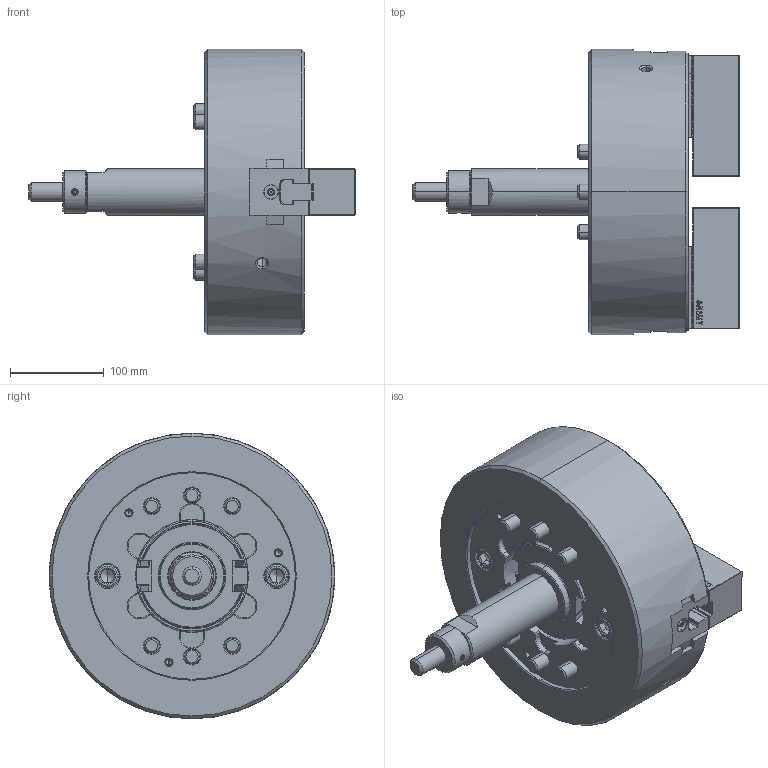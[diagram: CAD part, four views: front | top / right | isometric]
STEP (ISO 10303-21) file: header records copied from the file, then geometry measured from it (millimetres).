
FILE_DESCRIPTION (( 'STEP AP214' ), '1' );
FILE_NAME ('DT1_NLT12_OUTSIDE_VIEW_HOL.STEP', '2026-03-23T07:22:06', ( '' ), ( '' ), 'SwSTEP 2.0', 'SolidWorks 2022', '' );
FILE_SCHEMA (( 'AUTOMOTIVE_DESIGN' ));
Length unit declared in the file: millimetre
Products named in the file (11): DT1_NLT12_DRAWSCREW^DT1_NLT12; DT1_NLT12_COVER^DT1_NLT12; DT1_NLT12_TNUT^DT1_NLT12; DT1_NLT12_M16x100^DT1_NLT12; DT1_NLT12_M5x12^DT1_NLT12; DT1_NLT12_BASE^DT1_NLT12; DT1_NLT12_OUTSIDE_VIEW_HOL; Copy of 61P335750^DT1_NLT12; DT1_NLT12_SOFTJAW^DT1_NLT12; DT1_NLT12_DN^DT1_NLT12; DT1_NLT12_M14x45^DT1_NLT12
Assembly tree (23 placements, depth 2):
  DT1_NLT12_OUTSIDE_VIEW_HOL
    DT1_NLT12_SOFTJAW^DT1_NLT12  x2
    DT1_NLT12_TNUT^DT1_NLT12  x2
    DT1_NLT12_COVER^DT1_NLT12
    DT1_NLT12_DRAWSCREW^DT1_NLT12
    Copy of 61P335750^DT1_NLT12
    DT1_NLT12_DN^DT1_NLT12
    DT1_NLT12_BASE^DT1_NLT12
    DT1_NLT12_M16x100^DT1_NLT12  x6
    DT1_NLT12_M14x45^DT1_NLT12  x4
    DT1_NLT12_M5x12^DT1_NLT12  x4
Bounding box: 347.28 x 304 x 304 mm (x, y, z)
Volume: 7960504 mm3; surface area: 620658.8 mm2
Topology: 23 solids, 23 shells, 4515 faces, 12832 edges, 8395 vertices
Faces by surface type: plane 2700, cylinder 1222, cone 385, bspline 157, torus 47, sphere 4
Entity records: 111301 total; most frequent: CARTESIAN_POINT 30776, ORIENTED_EDGE 18356, DIRECTION 14438, EDGE_CURVE 9178, LINE 6504, VECTOR 6504, VERTEX_POINT 6022, AXIS2_PLACEMENT_3D 3967
